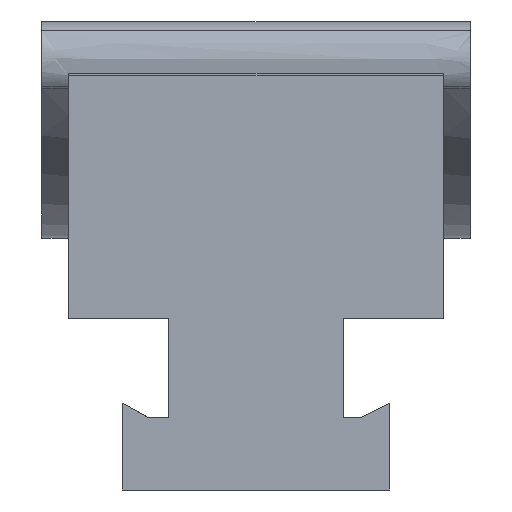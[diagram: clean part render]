
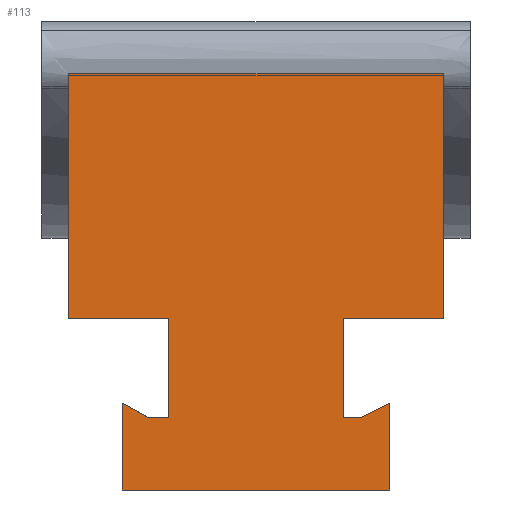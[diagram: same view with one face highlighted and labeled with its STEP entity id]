
A CAD part, left-side view. The second image highlights one B-rep face of the part: STEP entity #113.
In plain terms, the highlighted planar face has unit normal (-1, 0, 0).
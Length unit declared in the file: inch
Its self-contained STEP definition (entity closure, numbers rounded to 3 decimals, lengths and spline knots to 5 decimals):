
#113=ADVANCED_FACE('',(#247),#248,.T.);
#247=FACE_OUTER_BOUND('',#458,.T.);
#248=PLANE('',#459);
#458=EDGE_LOOP('',(#794,#795,#796,#797,#798,#799,#800,#801,#802,#803,#804,#805,#806,#807));
#459=AXIS2_PLACEMENT_3D('',#808,#809,#810);
#794=ORIENTED_EDGE('',*,*,#1163,.T.);
#795=ORIENTED_EDGE('',*,*,#1134,.T.);
#796=ORIENTED_EDGE('',*,*,#1164,.F.);
#797=ORIENTED_EDGE('',*,*,#1165,.F.);
#798=ORIENTED_EDGE('',*,*,#1166,.T.);
#799=ORIENTED_EDGE('',*,*,#1167,.T.);
#800=ORIENTED_EDGE('',*,*,#1092,.T.);
#801=ORIENTED_EDGE('',*,*,#1168,.T.);
#802=ORIENTED_EDGE('',*,*,#1169,.T.);
#803=ORIENTED_EDGE('',*,*,#1170,.T.);
#804=ORIENTED_EDGE('',*,*,#1096,.T.);
#805=ORIENTED_EDGE('',*,*,#1161,.T.);
#806=ORIENTED_EDGE('',*,*,#1086,.T.);
#807=ORIENTED_EDGE('',*,*,#1171,.T.);
#808=CARTESIAN_POINT('',(0.00028,1.50031,0.97177));
#809=DIRECTION('',(-1.,0.0,0.));
#810=DIRECTION('',(0.,0.0,-1.));
#1086=EDGE_CURVE('',#1294,#1295,#1296,.T.);
#1092=EDGE_CURVE('',#1306,#1304,#1307,.T.);
#1096=EDGE_CURVE('',#1312,#1313,#1314,.T.);
#1134=EDGE_CURVE('',#1376,#1374,#1377,.T.);
#1161=EDGE_CURVE('',#1313,#1294,#1415,.T.);
#1163=EDGE_CURVE('',#1417,#1376,#1418,.T.);
#1164=EDGE_CURVE('',#1419,#1374,#1420,.T.);
#1165=EDGE_CURVE('',#1421,#1419,#1422,.T.);
#1166=EDGE_CURVE('',#1421,#1423,#1424,.T.);
#1167=EDGE_CURVE('',#1423,#1306,#1425,.T.);
#1168=EDGE_CURVE('',#1304,#1426,#1427,.T.);
#1169=EDGE_CURVE('',#1426,#1428,#1429,.T.);
#1170=EDGE_CURVE('',#1428,#1312,#1430,.T.);
#1171=EDGE_CURVE('',#1295,#1417,#1431,.T.);
#1294=VERTEX_POINT('',#1608);
#1295=VERTEX_POINT('',#1609);
#1296=LINE('',#1610,#1611);
#1304=VERTEX_POINT('',#1622);
#1306=VERTEX_POINT('',#1625);
#1307=LINE('',#1626,#1627);
#1312=VERTEX_POINT('',#1634);
#1313=VERTEX_POINT('',#1635);
#1314=LINE('',#1636,#1637);
#1374=VERTEX_POINT('',#1760);
#1376=VERTEX_POINT('',#1762);
#1377=LINE('',#1763,#1764);
#1415=LINE('',#1830,#1831);
#1417=VERTEX_POINT('',#1833);
#1418=LINE('',#1834,#1835);
#1419=VERTEX_POINT('',#1836);
#1420=LINE('',#1837,#1838);
#1421=VERTEX_POINT('',#1839);
#1422=LINE('',#1840,#1841);
#1423=VERTEX_POINT('',#1842);
#1424=LINE('',#1843,#1844);
#1425=LINE('',#1845,#1846);
#1426=VERTEX_POINT('',#1847);
#1427=LINE('',#1848,#1849);
#1428=VERTEX_POINT('',#1850);
#1429=LINE('',#1851,#1852);
#1430=LINE('',#1853,#1854);
#1431=LINE('',#1855,#1856);
#1608=CARTESIAN_POINT('',(0.0001,0.13103,0.34001));
#1609=CARTESIAN_POINT('',(0.0001,0.21899,0.34001));
#1610=CARTESIAN_POINT('',(0.0001,0.83766,0.34001));
#1611=VECTOR('',#2006,1.0);
#1622=CARTESIAN_POINT('',(0.0001,1.13103,0.34001));
#1625=CARTESIAN_POINT('',(0.0001,1.03149,0.34001));
#1626=CARTESIAN_POINT('',(0.0001,1.29079,0.34001));
#1627=VECTOR('',#2011,1.0);
#1634=CARTESIAN_POINT('',(0.0,0.,0.0));
#1635=CARTESIAN_POINT('',(0.00011,0.,0.40582));
#1636=CARTESIAN_POINT('',(0.00016,0.,0.5774));
#1637=VECTOR('',#2014,1.0);
#1760=CARTESIAN_POINT('',(0.00055,-0.24969,1.94355));
#1762=CARTESIAN_POINT('',(0.00023,-0.24969,0.79842));
#1763=CARTESIAN_POINT('',(0.0,-0.24969,0.0));
#1764=VECTOR('',#2058,1.);
#1830=CARTESIAN_POINT('',(0.00004,0.51813,0.1456));
#1831=VECTOR('',#2088,1.0);
#1833=CARTESIAN_POINT('',(0.00023,0.21899,0.79842));
#1834=CARTESIAN_POINT('',(0.00023,0.71123,0.79842));
#1835=VECTOR('',#2089,1.0);
#1836=CARTESIAN_POINT('',(0.00055,1.50031,1.94355));
#1837=CARTESIAN_POINT('',(0.00055,1.50031,1.94355));
#1838=VECTOR('',#2090,1.0);
#1839=CARTESIAN_POINT('',(0.00023,1.50031,0.79842));
#1840=CARTESIAN_POINT('',(0.0,1.50031,0.0));
#1841=VECTOR('',#2091,1.0);
#1842=CARTESIAN_POINT('',(0.00023,1.03149,0.79842));
#1843=CARTESIAN_POINT('',(0.00023,1.41436,0.79842));
#1844=VECTOR('',#2092,1.0);
#1845=CARTESIAN_POINT('',(0.00022,1.03149,0.77097));
#1846=VECTOR('',#2093,1.0);
#1847=CARTESIAN_POINT('',(0.00011,1.25,0.40582));
#1848=CARTESIAN_POINT('',(0.00014,1.43615,0.50879));
#1849=VECTOR('',#2094,1.0);
#1850=CARTESIAN_POINT('',(0.0,1.25,0.0));
#1851=CARTESIAN_POINT('',(0.00016,1.25,0.5774));
#1852=VECTOR('',#2095,1.0);
#1853=CARTESIAN_POINT('',(0.0,1.50031,0.0));
#1854=VECTOR('',#2096,1.0);
#1855=CARTESIAN_POINT('',(0.00022,0.21899,0.77097));
#1856=VECTOR('',#2097,1.0);
#2006=DIRECTION('',(-0.0,1.0,-0.0));
#2011=DIRECTION('',(-0.0,1.0,-0.0));
#2014=DIRECTION('',(0.,0.0,1.));
#2058=DIRECTION('',(0.,0.0,1.));
#2088=DIRECTION('',(0.,0.894,-0.449));
#2089=DIRECTION('',(0.0,-1.0,0.0));
#2090=DIRECTION('',(0.0,-1.0,0.0));
#2091=DIRECTION('',(0.,0.0,1.));
#2092=DIRECTION('',(0.0,-1.0,0.0));
#2093=DIRECTION('',(0.,-0.0,-1.));
#2094=DIRECTION('',(0.,0.875,0.484));
#2095=DIRECTION('',(0.,-0.0,-1.));
#2096=DIRECTION('',(0.0,-1.0,0.0));
#2097=DIRECTION('',(0.,0.0,1.));
